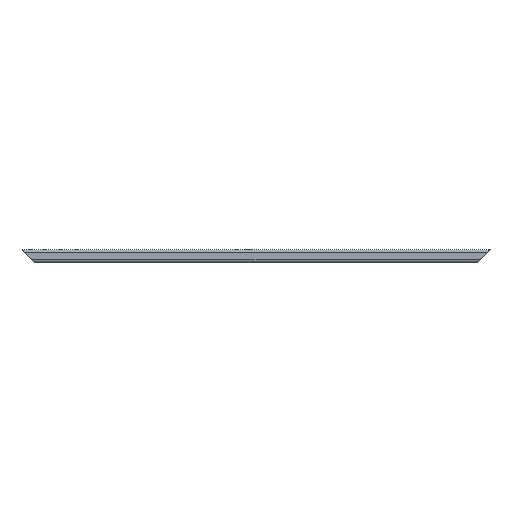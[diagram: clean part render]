
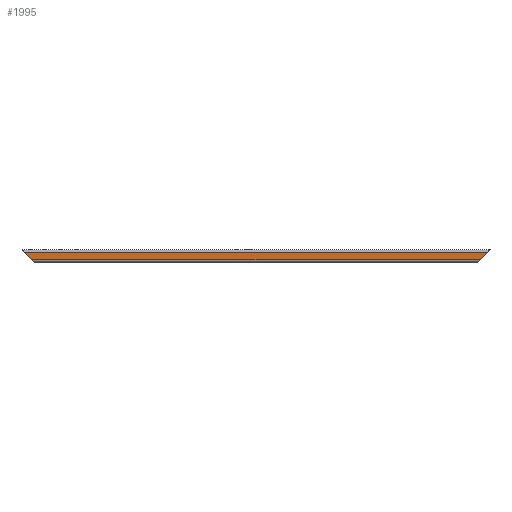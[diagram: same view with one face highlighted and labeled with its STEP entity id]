
A CAD part, front view. The second image highlights one B-rep face of the part: STEP entity #1995.
In plain terms, the highlighted planar face has unit normal (0, -1, 0).
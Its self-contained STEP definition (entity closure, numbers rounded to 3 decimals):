
#44 = PLANE('',#45);
#45 = AXIS2_PLACEMENT_3D('',#46,#47,#48);
#46 = CARTESIAN_POINT('',(2920.,-40.,1220.));
#47 = DIRECTION('',(-0.707,0.,0.707));
#48 = DIRECTION('',(0.,1.,0.));
#99 = PLANE('',#100);
#100 = AXIS2_PLACEMENT_3D('',#101,#102,#103);
#101 = CARTESIAN_POINT('',(0.,40.,1300.));
#102 = DIRECTION('',(-0.707,0.,-0.707));
#103 = DIRECTION('',(0.,-1.,0.));
#125 = CYLINDRICAL_SURFACE('',#126,16.);
#126 = AXIS2_PLACEMENT_3D('',#127,#128,#129);
#127 = CARTESIAN_POINT('',(3040.8,-24.,1236.));
#128 = DIRECTION('',(1.,0.,0.));
#129 = DIRECTION('',(0.,1.,0.));
#441 = VERTEX_POINT('',#442);
#442 = CARTESIAN_POINT('',(2936.,-40.,1236.));
#470 = EDGE_CURVE('',#441,#471,#473,.T.);
#471 = VERTEX_POINT('',#472);
#472 = CARTESIAN_POINT('',(2984.,-40.,1284.));
#473 = SURFACE_CURVE('',#474,(#478,#485),.PCURVE_S1.);
#474 = LINE('',#475,#476);
#475 = CARTESIAN_POINT('',(2954.2,-40.,1254.2));
#476 = VECTOR('',#477,1.);
#477 = DIRECTION('',(0.707,0.,0.707));
#478 = PCURVE('',#44,#479);
#479 = DEFINITIONAL_REPRESENTATION('',(#480),#484);
#480 = LINE('',#481,#482);
#481 = CARTESIAN_POINT('',(0.,-48.366));
#482 = VECTOR('',#483,1.);
#483 = DIRECTION('',(0.,-1.));
#484 = ( GEOMETRIC_REPRESENTATION_CONTEXT(2) 
PARAMETRIC_REPRESENTATION_CONTEXT() REPRESENTATION_CONTEXT('2D SPACE',''
  ) );
#485 = PCURVE('',#486,#491);
#486 = PLANE('',#487);
#487 = AXIS2_PLACEMENT_3D('',#488,#489,#490);
#488 = CARTESIAN_POINT('',(3040.8,-40.,1236.));
#489 = DIRECTION('',(0.,1.,0.));
#490 = DIRECTION('',(0.,0.,1.));
#491 = DEFINITIONAL_REPRESENTATION('',(#492),#496);
#492 = LINE('',#493,#494);
#493 = CARTESIAN_POINT('',(18.2,-86.6));
#494 = VECTOR('',#495,1.);
#495 = DIRECTION('',(0.707,0.707));
#496 = ( GEOMETRIC_REPRESENTATION_CONTEXT(2) 
PARAMETRIC_REPRESENTATION_CONTEXT() REPRESENTATION_CONTEXT('2D SPACE',''
  ) );
#515 = CYLINDRICAL_SURFACE('',#516,16.);
#516 = AXIS2_PLACEMENT_3D('',#517,#518,#519);
#517 = CARTESIAN_POINT('',(3040.8,-24.,1284.));
#518 = DIRECTION('',(1.,0.,0.));
#519 = DIRECTION('',(0.,1.,0.));
#937 = VERTEX_POINT('',#938);
#938 = CARTESIAN_POINT('',(64.,-40.,1236.));
#966 = EDGE_CURVE('',#937,#967,#969,.T.);
#967 = VERTEX_POINT('',#968);
#968 = CARTESIAN_POINT('',(16.,-40.,1284.));
#969 = SURFACE_CURVE('',#970,(#974,#981),.PCURVE_S1.);
#970 = LINE('',#971,#972);
#971 = CARTESIAN_POINT('',(776.2,-40.,523.8));
#972 = VECTOR('',#973,1.);
#973 = DIRECTION('',(-0.707,0.,0.707));
#974 = PCURVE('',#99,#975);
#975 = DEFINITIONAL_REPRESENTATION('',(#976),#980);
#976 = LINE('',#977,#978);
#977 = CARTESIAN_POINT('',(80.,-1097.713));
#978 = VECTOR('',#979,1.);
#979 = DIRECTION('',(0.,1.));
#980 = ( GEOMETRIC_REPRESENTATION_CONTEXT(2) 
PARAMETRIC_REPRESENTATION_CONTEXT() REPRESENTATION_CONTEXT('2D SPACE',''
  ) );
#981 = PCURVE('',#486,#982);
#982 = DEFINITIONAL_REPRESENTATION('',(#983),#987);
#983 = LINE('',#984,#985);
#984 = CARTESIAN_POINT('',(-712.2,-2264.6));
#985 = VECTOR('',#986,1.);
#986 = DIRECTION('',(0.707,-0.707));
#987 = ( GEOMETRIC_REPRESENTATION_CONTEXT(2) 
PARAMETRIC_REPRESENTATION_CONTEXT() REPRESENTATION_CONTEXT('2D SPACE',''
  ) );
#1312 = EDGE_CURVE('',#441,#937,#1313,.T.);
#1313 = SURFACE_CURVE('',#1314,(#1318,#1324),.PCURVE_S1.);
#1314 = LINE('',#1315,#1316);
#1315 = CARTESIAN_POINT('',(3040.8,-40.,1236.));
#1316 = VECTOR('',#1317,1.);
#1317 = DIRECTION('',(-1.,0.,0.));
#1318 = PCURVE('',#125,#1319);
#1319 = DEFINITIONAL_REPRESENTATION('',(#1320),#1323);
#1320 = B_SPLINE_CURVE_WITH_KNOTS('',1,(#1321,#1322),.UNSPECIFIED.,.F.,
  .F.,(2,2),(104.8,2976.8),.PIECEWISE_BEZIER_KNOTS.);
#1321 = CARTESIAN_POINT('',(3.142,-104.8));
#1322 = CARTESIAN_POINT('',(3.142,-2976.8));
#1323 = ( GEOMETRIC_REPRESENTATION_CONTEXT(2) 
PARAMETRIC_REPRESENTATION_CONTEXT() REPRESENTATION_CONTEXT('2D SPACE',''
  ) );
#1324 = PCURVE('',#486,#1325);
#1325 = DEFINITIONAL_REPRESENTATION('',(#1326),#1330);
#1326 = LINE('',#1327,#1328);
#1327 = CARTESIAN_POINT('',(0.,0.));
#1328 = VECTOR('',#1329,1.);
#1329 = DIRECTION('',(0.,-1.));
#1330 = ( GEOMETRIC_REPRESENTATION_CONTEXT(2) 
PARAMETRIC_REPRESENTATION_CONTEXT() REPRESENTATION_CONTEXT('2D SPACE',''
  ) );
#1973 = EDGE_CURVE('',#471,#967,#1974,.T.);
#1974 = SURFACE_CURVE('',#1975,(#1979,#1985),.PCURVE_S1.);
#1975 = LINE('',#1976,#1977);
#1976 = CARTESIAN_POINT('',(3040.8,-40.,1284.));
#1977 = VECTOR('',#1978,1.);
#1978 = DIRECTION('',(-1.,0.,0.));
#1979 = PCURVE('',#515,#1980);
#1980 = DEFINITIONAL_REPRESENTATION('',(#1981),#1984);
#1981 = B_SPLINE_CURVE_WITH_KNOTS('',1,(#1982,#1983),.UNSPECIFIED.,.F.,
  .F.,(2,2),(56.8,3024.8),.PIECEWISE_BEZIER_KNOTS.);
#1982 = CARTESIAN_POINT('',(3.142,-56.8));
#1983 = CARTESIAN_POINT('',(3.142,-3024.8));
#1984 = ( GEOMETRIC_REPRESENTATION_CONTEXT(2) 
PARAMETRIC_REPRESENTATION_CONTEXT() REPRESENTATION_CONTEXT('2D SPACE',''
  ) );
#1985 = PCURVE('',#486,#1986);
#1986 = DEFINITIONAL_REPRESENTATION('',(#1987),#1991);
#1987 = LINE('',#1988,#1989);
#1988 = CARTESIAN_POINT('',(48.,0.));
#1989 = VECTOR('',#1990,1.);
#1990 = DIRECTION('',(0.,-1.));
#1991 = ( GEOMETRIC_REPRESENTATION_CONTEXT(2) 
PARAMETRIC_REPRESENTATION_CONTEXT() REPRESENTATION_CONTEXT('2D SPACE',''
  ) );
#1995 = ADVANCED_FACE('',(#1996),#486,.F.);
#1996 = FACE_BOUND('',#1997,.F.);
#1997 = EDGE_LOOP('',(#1998,#1999,#2000,#2001));
#1998 = ORIENTED_EDGE('',*,*,#470,.F.);
#1999 = ORIENTED_EDGE('',*,*,#1312,.T.);
#2000 = ORIENTED_EDGE('',*,*,#966,.T.);
#2001 = ORIENTED_EDGE('',*,*,#1973,.F.);
